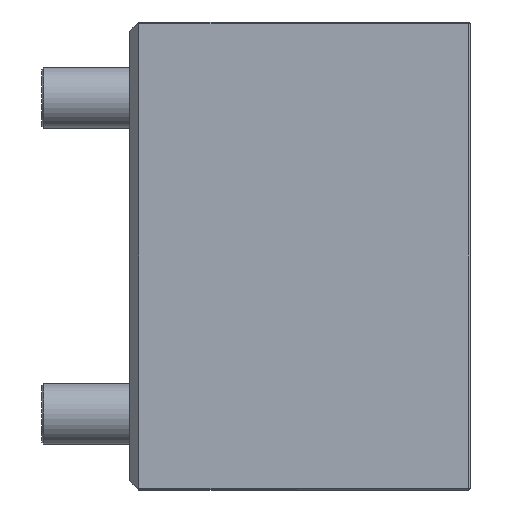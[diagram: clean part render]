
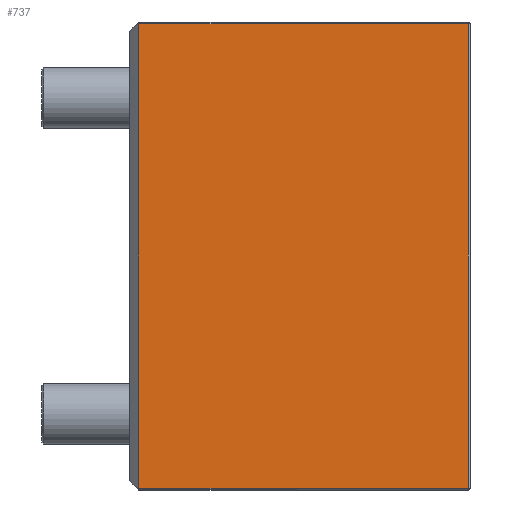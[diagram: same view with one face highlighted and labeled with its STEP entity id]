
A CAD part, front view. The second image highlights one B-rep face of the part: STEP entity #737.
In plain terms, the highlighted planar face has unit normal (0, -1, 0) as drawn and (0, 1, 0) by its records, which use the part's own axes.
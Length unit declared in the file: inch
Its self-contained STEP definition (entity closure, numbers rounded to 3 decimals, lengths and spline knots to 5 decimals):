
#72 = FACE_OUTER_BOUND ( 'NONE', #707, .T. ) ;
#149 = CARTESIAN_POINT ( 'NONE',  ( -2.385, 0., -3.5 ) ) ;
#213 = VECTOR ( 'NONE', #540, 39.37008 ) ;
#264 = ORIENTED_EDGE ( 'NONE', *, *, #696, .T. ) ;
#536 = VERTEX_POINT ( 'NONE', #1520 ) ;
#540 = DIRECTION ( 'NONE',  ( 0., 0., -1. ) ) ;
#607 = LINE ( 'NONE', #831, #904 ) ;
#696 = EDGE_CURVE ( 'NONE', #1115, #1972, #1165, .T. ) ;
#707 = EDGE_LOOP ( 'NONE', ( #264, #1620, #1358, #1458 ) ) ;
#737 = ADVANCED_FACE ( 'NONE', ( #72 ), #1667, .T. ) ;
#769 = DIRECTION ( 'NONE',  ( 0., 0., 1. ) ) ;
#821 = LINE ( 'NONE', #1831, #1243 ) ;
#827 = DIRECTION ( 'NONE',  ( 1., 0., 0. ) ) ;
#831 = CARTESIAN_POINT ( 'NONE',  ( -2.405, 0., -0.02 ) ) ;
#867 = CARTESIAN_POINT ( 'NONE',  ( -2.405, 0., -3.5 ) ) ;
#872 = DIRECTION ( 'NONE',  ( 0., 1., 0. ) ) ;
#904 = VECTOR ( 'NONE', #827, 39.37008 ) ;
#957 = EDGE_CURVE ( 'NONE', #536, #1115, #607, .T. ) ;
#966 = CARTESIAN_POINT ( 'NONE',  ( -2.385, 0., -3.406 ) ) ;
#1042 = DIRECTION ( 'NONE',  ( -1., 0., 0. ) ) ;
#1115 = VERTEX_POINT ( 'NONE', #1499 ) ;
#1165 = LINE ( 'NONE', #1794, #213 ) ;
#1168 = DIRECTION ( 'NONE',  ( -1., 0., 0. ) ) ;
#1239 = VECTOR ( 'NONE', #769, 39.37008 ) ;
#1243 = VECTOR ( 'NONE', #1042, 39.37008 ) ;
#1358 = ORIENTED_EDGE ( 'NONE', *, *, #1861, .T. ) ;
#1413 = VERTEX_POINT ( 'NONE', #966 ) ;
#1420 = LINE ( 'NONE', #149, #1239 ) ;
#1458 = ORIENTED_EDGE ( 'NONE', *, *, #957, .T. ) ;
#1499 = CARTESIAN_POINT ( 'NONE',  ( 2.385, 0., -0.02 ) ) ;
#1520 = CARTESIAN_POINT ( 'NONE',  ( -2.385, 0., -0.02 ) ) ;
#1604 = CARTESIAN_POINT ( 'NONE',  ( 2.385, 0., -3.406 ) ) ;
#1620 = ORIENTED_EDGE ( 'NONE', *, *, #1706, .T. ) ;
#1628 = AXIS2_PLACEMENT_3D ( 'NONE', #867, #872, #1168 ) ;
#1667 = PLANE ( 'NONE',  #1628 ) ;
#1706 = EDGE_CURVE ( 'NONE', #1972, #1413, #821, .T. ) ;
#1794 = CARTESIAN_POINT ( 'NONE',  ( 2.385, 0., -3.5 ) ) ;
#1831 = CARTESIAN_POINT ( 'NONE',  ( -2.385, 0., -3.406 ) ) ;
#1861 = EDGE_CURVE ( 'NONE', #1413, #536, #1420, .T. ) ;
#1972 = VERTEX_POINT ( 'NONE', #1604 ) ;
